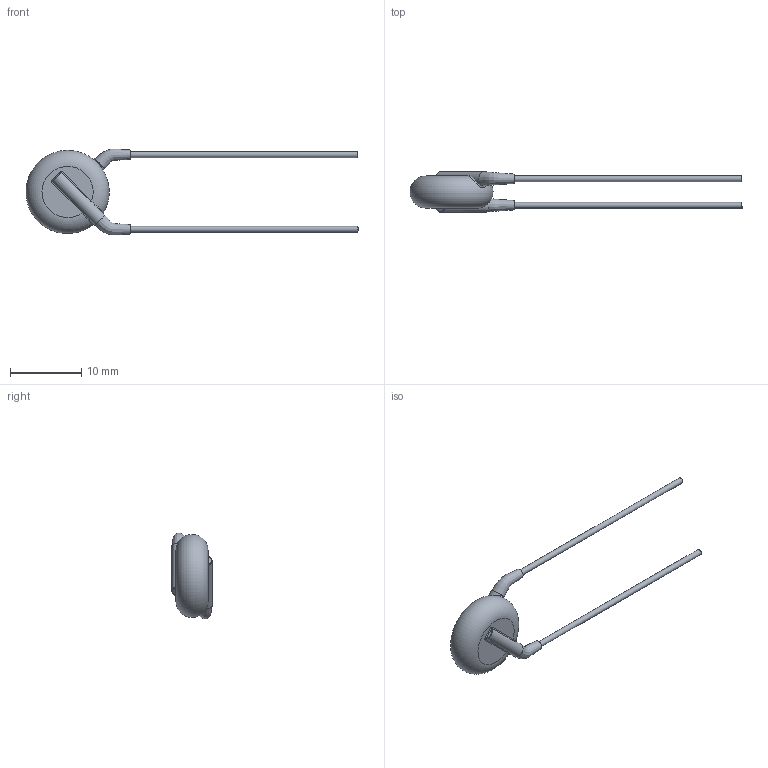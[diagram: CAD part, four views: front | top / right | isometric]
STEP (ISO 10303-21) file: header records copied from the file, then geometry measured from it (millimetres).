
FILE_DESCRIPTION(/* description */ (''),/* implementation_level */ '2;1');
FILE_NAME(/* name */ 'I:\Marketing\M6t1\3D-Models\Zchng-Werk-3\Upload for homepage\Ceramite\Y5U\440LD27-R\440LD27-R.stp',/* time_stamp */ '2016-11-10T14:18:27+01:00',/* author */ ('sheinrich'),/* organization */ (''),/* preprocessor_version */ 'ST-DEVELOPER v16.1',/* originating_system */ 'Autodesk Inventor 2016',/* authorisation */ '');
FILE_SCHEMA (('AUTOMOTIVE_DESIGN { 1 0 10303 214 3 1 1 }'));
Length unit declared in the file: millimetre
Products named in the file (1): 440LD27-R
Bounding box: 46.69 x 5.7 x 12.07 mm (x, y, z)
Volume: 483.9 mm3; surface area: 534.2 mm2
Topology: 1 solids, 1 shells, 37 faces, 80 edges, 43 vertices
Faces by surface type: bspline 12, cylinder 10, plane 8, torus 7
Full cylindrical faces by diameter (mm): 0.81 x2, 2 x2
Entity records: 1749 total; most frequent: CARTESIAN_POINT 998, ORIENTED_EDGE 136, DIRECTION 128, EDGE_CURVE 68, AXIS2_PLACEMENT_3D 58, EDGE_LOOP 44, VERTEX_POINT 40, STYLED_ITEM 38
